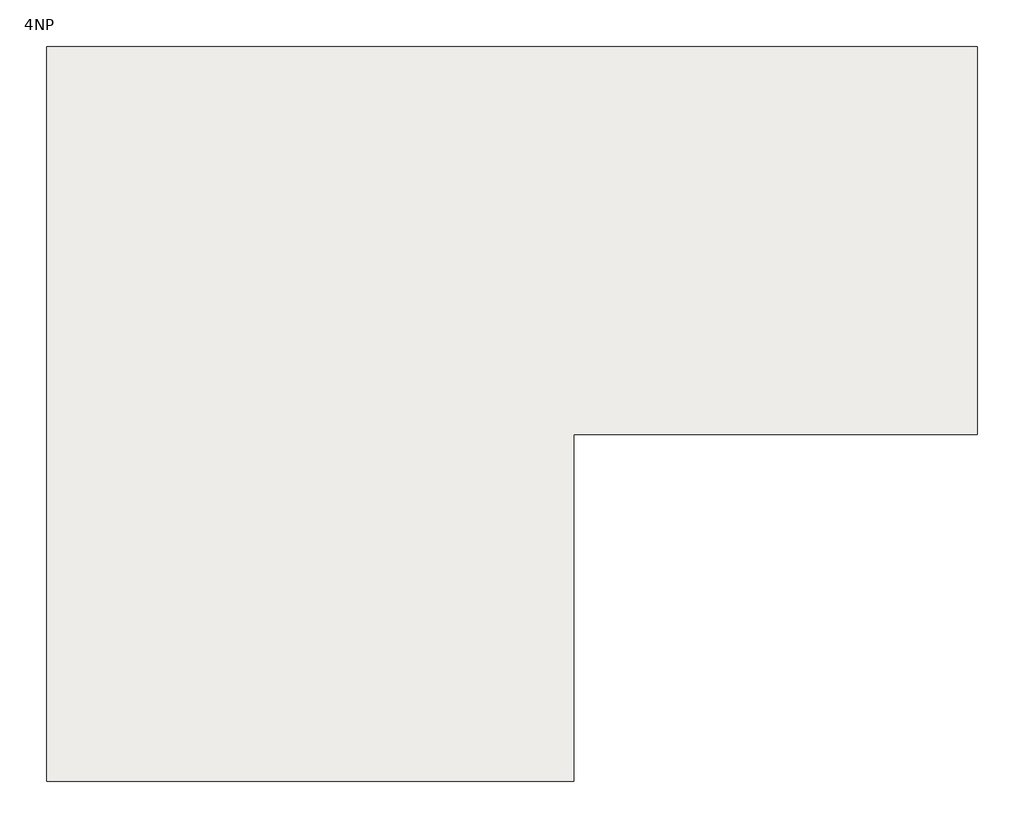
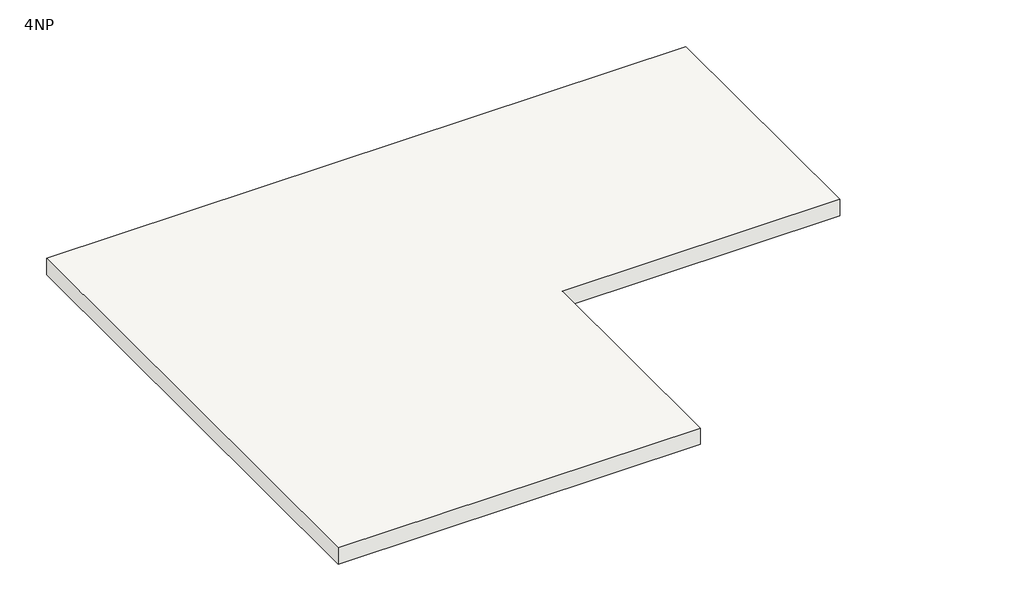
# One storey: 1 roof.
"""IFC4 building model written with IfcOpenShell, lengths in millimetres."""

import ifcopenshell
import ifcopenshell.guid

model = None  # the IFC model being written
_history = None  # IfcOwnerHistory: only IFC2X3 demands one
_inside = {}  # id of a spatial element -> (the spatial element, [elements in it])
_under = {}  # id of a project, library or spatial element -> (it, [spatial elements below it])
_declared = {}  # id of a project -> (the project, [libraries it declares])
_typed = {}  # id of a type object -> (the type object, [elements of that type])
_made_of = {}  # id of a material, layer set ... -> (it, [elements and type objects made of it])


def new_model(schema):
    """Start an empty IFC model of exactly this schema.

    Asked for "IFC4X3", IfcOpenShell would pick the latest addendum, in which some entities
    have other attributes; the version numbers below select the first issue.
    IFC2X3 requires an IfcOwnerHistory on every rooted entity: one is made here for all.
    """
    global model, _history
    if schema == "IFC4X3":
        model = ifcopenshell.file(schema_version=(4, 3, 0, 0))
    else:
        model = ifcopenshell.file(schema=schema)
    _inside.clear()
    _under.clear()
    _declared.clear()
    _typed.clear()
    _made_of.clear()
    _history = None
    if model.schema == "IFC2X3":
        org = make("IfcOrganization", Name="unknown")
        user = make(
            "IfcPersonAndOrganization",
            ThePerson=make("IfcPerson", FamilyName="unknown"),
            TheOrganization=org,
        )
        app = make(
            "IfcApplication",
            ApplicationDeveloper=org,
            Version="unknown",
            ApplicationFullName="unknown",
            ApplicationIdentifier="unknown",
        )
        _history = make(
            "IfcOwnerHistory",
            OwningUser=user,
            OwningApplication=app,
            ChangeAction="ADDED",
            CreationDate=0,
        )
    return model


def make(cls, **values):
    """One entity of the class cls with the attributes given. An attribute that is None is left unset."""
    return model.create_entity(
        cls, **{name: value for name, value in values.items() if value is not None}
    )


def rooted(cls, **values):
    """An entity with a GlobalId (a new one), such as an element, a storey or a relation."""
    return make(cls, GlobalId=ifcopenshell.guid.new(), OwnerHistory=_history, **values)


def si_unit(unit_type, name, prefix=None):
    """IfcSIUnit, for example si_unit("LENGTHUNIT", "METRE", prefix="MILLI")."""
    return make("IfcSIUnit", UnitType=unit_type, Prefix=prefix, Name=name)


def assignment(units):
    """IfcUnitAssignment: the units of a project."""
    return None if units is None else make("IfcUnitAssignment", Units=units)


def point(xyz):
    """IfcCartesianPoint."""
    return None if xyz is None else make("IfcCartesianPoint", Coordinates=xyz)


def direction(xyz):
    """IfcDirection."""
    return None if xyz is None else make("IfcDirection", DirectionRatios=xyz)


def frame(location, z_axis=None, x_axis=None):
    """IfcAxis2Placement3D, a coordinate frame: its origin and axes. An axis left out is left unset."""
    return make(
        "IfcAxis2Placement3D",
        Location=point(location),
        Axis=direction(z_axis),
        RefDirection=direction(x_axis),
    )


def origin():
    """The frame at (0, 0, 0) with its axes left unset."""
    return frame((0.0, 0.0, 0.0))


def place(relative_to, where):
    """IfcLocalPlacement: puts the frame where relative to a parent placement (None: the world)."""
    return make(
        "IfcLocalPlacement", PlacementRelTo=relative_to, RelativePlacement=where
    )


def context(
    kind, dimensions, precision=None, world=None, true_north=None, identifier=None
):
    """IfcGeometricRepresentationContext, for example the 3D "Model" context."""
    return make(
        "IfcGeometricRepresentationContext",
        ContextIdentifier=identifier,
        ContextType=kind,
        CoordinateSpaceDimension=dimensions,
        Precision=precision,
        WorldCoordinateSystem=world,
        TrueNorth=true_north,
    )


def project(units=None, contexts=None):
    """IfcProject with its units and contexts."""
    return rooted(
        "IfcProject",
        Name="project",
        RepresentationContexts=contexts,
        UnitsInContext=assignment(units),
    )


def spatial(cls, under=None, at=None, **own):
    """A site, building, storey or space (cls), placed at a placement, below another one or the project."""
    s = rooted(cls, ObjectPlacement=at, **own)
    if under is not None:
        _under.setdefault(under.id(), (under, []))[1].append(s)
    return s


def polyline(points):
    """IfcPolyline through the points."""
    return make("IfcPolyline", Points=[point(p) for p in points])


def outline(outer, holes=None, kind="AREA"):
    """IfcArbitraryClosedProfileDef: a profile drawn as a closed curve; with holes, ...WithVoids."""
    if holes is None:
        return make("IfcArbitraryClosedProfileDef", ProfileType=kind, OuterCurve=outer)
    return make(
        "IfcArbitraryProfileDefWithVoids",
        ProfileType=kind,
        OuterCurve=outer,
        InnerCurves=holes,
    )


def extrude(swept, where, along, depth):
    """IfcExtrudedAreaSolid: the profile swept, set in the frame where, extruded along a direction by depth."""
    return make(
        "IfcExtrudedAreaSolid",
        SweptArea=swept,
        Position=where,
        ExtrudedDirection=direction(along),
        Depth=depth,
    )


def shape(context_of_items, identifier, shape_type, items):
    """IfcShapeRepresentation: the items that make up one representation, for example the "Body"."""
    return make(
        "IfcShapeRepresentation",
        ContextOfItems=context_of_items,
        RepresentationIdentifier=identifier,
        RepresentationType=shape_type,
        Items=items,
    )


def made_of(thing, what):
    """Note that an element or type object is made of a material, layer set ...; save() writes the relation."""
    if what is not None:
        _made_of.setdefault(what.id(), (what, []))[1].append(thing)
    return thing


def element(
    cls,
    number,
    at=None,
    inside=None,
    cuts=None,
    type_object=None,
    material=None,
    context=None,
    identifier="Body",
    shape_type=None,
    held_by="IfcProductDefinitionShape",
    body=None,
    shapes=None,
    **own,
):
    """One element of the class cls, such as IfcWall. Its Tag is "e" and its number.

    at: its placement. inside: the storey or other place that contains it. cuts: it is an
    opening in that element (IfcRelVoidsElement). A single representation is given by context,
    identifier, shape_type and body (its items); several are given by shapes. held_by: the class
    of the entity that holds the representations. save() writes the other relations.
    """
    e = rooted(cls, Tag="e%d" % number, ObjectPlacement=at, **own)
    if body is not None:
        shapes = [shape(context, identifier, shape_type, body)]
    if shapes is not None:
        e.Representation = make(held_by, Representations=shapes)
    if inside is not None:
        _inside.setdefault(inside.id(), (inside, []))[1].append(e)
    if cuts is not None:
        rooted(
            "IfcRelVoidsElement", RelatingBuildingElement=cuts, RelatedOpeningElement=e
        )
    if type_object is not None:
        _typed.setdefault(type_object.id(), (type_object, []))[1].append(e)
    return made_of(e, material)


def aggregate(whole, parts):
    """IfcRelAggregates: a whole, such as a stair, and the parts it consists of."""
    return rooted("IfcRelAggregates", RelatingObject=whole, RelatedObjects=parts)


def save(model, path):
    """Write the relations noted so far, then the file.

    IfcRelAggregates (storeys below a building ...), IfcRelContainedInSpatialStructure (elements
    in a storey), IfcRelDefinesByType, IfcRelAssociatesMaterial and IfcRelDeclares: one each for
    every whole, place, type object, material and project.
    """
    for whole, parts in _under.values():
        aggregate(whole, parts)
    for where, things in _inside.values():
        rooted(
            "IfcRelContainedInSpatialStructure",
            RelatedElements=things,
            RelatingStructure=where,
        )
    for kind, things in _typed.values():
        rooted("IfcRelDefinesByType", RelatedObjects=things, RelatingType=kind)
    for what, things in _made_of.values():
        rooted("IfcRelAssociatesMaterial", RelatedObjects=things, RelatingMaterial=what)
    for by, libraries in _declared.values():
        rooted("IfcRelDeclares", RelatingContext=by, RelatedDefinitions=libraries)
    model.write(path)


model = new_model("IFC4")

# Units and contexts
model_context = context("Model", 3, world=origin())
ifc_project = project(units=[si_unit("LENGTHUNIT", "METRE", prefix="MILLI")], contexts=[model_context])

# Site, building, storey
site = spatial("IfcSite", under=ifc_project)
building = spatial("IfcBuilding", under=site)
storey = spatial("IfcBuildingStorey", under=building, Name="4NP", Elevation=12000.0)

# Roof
placement = place(None, origin())
element("IfcRoof", 1, ObjectType="Generic - 400mm", at=placement, inside=storey, context=model_context, shape_type="SweptSolid", body=[
    extrude(outline(polyline([(-7530.3077176, 7224.8026806), (7219.6922824, 7224.8026806), (7219.6922824, 1074.8026806), (819.6922824, 1074.8026806), (819.6922824, -4425.1973194), (-7530.3077176, -4425.1973194), (-7530.3077176, 7224.8026806)])), frame((0.0, 0.0, 12000.0), z_axis=(0.0, 0.0, 1.0), x_axis=(1.0, 0.0, 0.0)), (0.0, 0.0, 1.0), 400.0),
])

save(model, "model.ifc")
